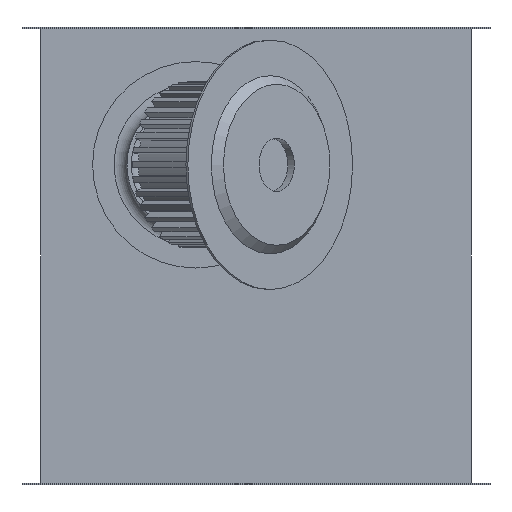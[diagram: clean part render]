
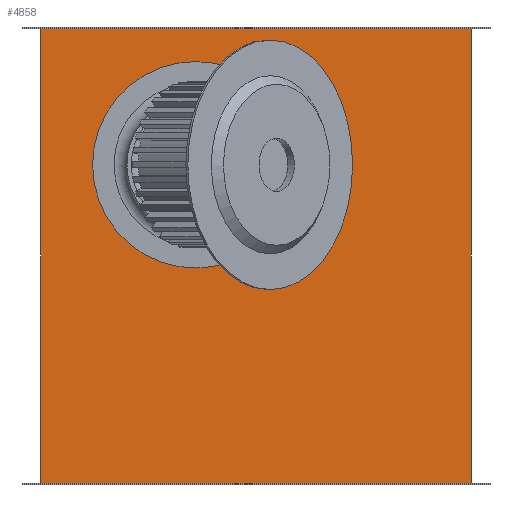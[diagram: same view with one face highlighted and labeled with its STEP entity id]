
A CAD part, front view. The second image highlights one B-rep face of the part: STEP entity #4858.
In plain terms, the highlighted planar face has unit normal (0, -1, 0).
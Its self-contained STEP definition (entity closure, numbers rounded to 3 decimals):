
#190=FACE_BOUND('',#1038,.T.);
#430=CIRCLE('',#5248,120.);
#730=FACE_OUTER_BOUND('',#1037,.T.);
#1037=EDGE_LOOP('',(#4338,#4339,#4340,#4341));
#1038=EDGE_LOOP('',(#4342));
#1564=LINE('',#8047,#1997);
#1565=LINE('',#8050,#1998);
#1566=LINE('',#8052,#1999);
#1567=LINE('',#8053,#2000);
#1997=VECTOR('',#6631,10.);
#1998=VECTOR('',#6634,10.);
#1999=VECTOR('',#6635,10.);
#2000=VECTOR('',#6636,10.);
#2388=VERTEX_POINT('',#7913);
#2438=VERTEX_POINT('',#8041);
#2440=VERTEX_POINT('',#8045);
#2441=VERTEX_POINT('',#8049);
#2442=VERTEX_POINT('',#8051);
#3045=EDGE_CURVE('',#2388,#2388,#430,.T.);
#3101=EDGE_CURVE('',#2438,#2440,#1564,.T.);
#3102=EDGE_CURVE('',#2441,#2440,#1565,.T.);
#3103=EDGE_CURVE('',#2441,#2442,#1566,.T.);
#3104=EDGE_CURVE('',#2442,#2438,#1567,.T.);
#4338=ORIENTED_EDGE('',*,*,#3101,.T.);
#4339=ORIENTED_EDGE('',*,*,#3102,.F.);
#4340=ORIENTED_EDGE('',*,*,#3103,.T.);
#4341=ORIENTED_EDGE('',*,*,#3104,.T.);
#4342=ORIENTED_EDGE('',*,*,#3045,.T.);
#4627=PLANE('',#5314);
#4858=ADVANCED_FACE('',(#730,#190),#4627,.T.);
#5248=AXIS2_PLACEMENT_3D('',#7914,#6484,#6485);
#5314=AXIS2_PLACEMENT_3D('',#8048,#6632,#6633);
#6484=DIRECTION('center_axis',(0.,1.,0.));
#6485=DIRECTION('ref_axis',(-1.,0.,0.));
#6631=DIRECTION('',(1.,0.,0.));
#6632=DIRECTION('center_axis',(0.,-1.,0.));
#6633=DIRECTION('ref_axis',(1.,0.,0.));
#6634=DIRECTION('',(0.,0.,-1.));
#6635=DIRECTION('',(-1.,0.,0.));
#6636=DIRECTION('',(0.,0.,-1.));
#7913=CARTESIAN_POINT('',(50.,-125.,106.));
#7914=CARTESIAN_POINT('Origin',(-70.,-125.,106.));
#8041=CARTESIAN_POINT('',(-250.,-125.,-264.));
#8045=CARTESIAN_POINT('',(250.,-125.,-264.));
#8047=CARTESIAN_POINT('',(-125.,-125.,-264.));
#8048=CARTESIAN_POINT('Origin',(-250.,-125.,0.));
#8049=CARTESIAN_POINT('',(250.,-125.,264.));
#8050=CARTESIAN_POINT('',(250.,-125.,0.));
#8051=CARTESIAN_POINT('',(-250.,-125.,264.));
#8052=CARTESIAN_POINT('',(-125.,-125.,264.));
#8053=CARTESIAN_POINT('',(-250.,-125.,0.));
